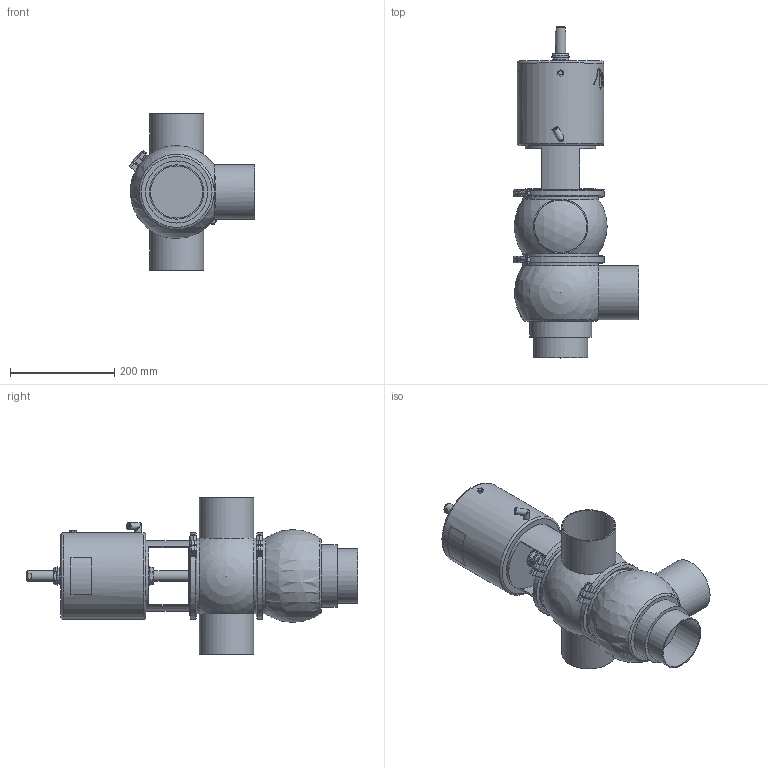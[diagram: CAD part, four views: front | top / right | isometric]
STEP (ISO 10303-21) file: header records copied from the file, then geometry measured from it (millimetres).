
FILE_DESCRIPTION (( 'STEP AP214' ), '1' );
FILE_NAME ('INNOVA K E W DIN 100 T4 AS NC_10.240.16.0022.STEP', '2024-08-06T10:52:31', ( '' ), ( '' ), 'SwSTEP 2.0', 'SolidWorks 2023', '' );
FILE_SCHEMA (( 'AUTOMOTIVE_DESIGN' ));
Length unit declared in the file: millimetre
Products named in the file (6): 10.240.15.0014_T4 AS P0; 10.240.15.0002_DIN 100; 10.240.15.0007_DIN 100; 10.240.15.0010_DN 100; 10.240.15.0001_DN 100; INNOVA K E W DIN 100 T4 AS NC_10.240.16.0022
Assembly tree (6 placements, depth 2):
  INNOVA K E W DIN 100 T4 AS NC_10.240.16.0022
    10.240.15.0007_DIN 100
    10.240.15.0002_DIN 100
    10.240.15.0010_DN 100
    10.240.15.0014_T4 AS P0
    10.240.15.0001_DN 100  x2
Bounding box: 241.26 x 636 x 300 mm (x, y, z)
Volume: 9495707.3 mm3; surface area: 692046.1 mm2
Topology: 6 solids, 6 shells, 402 faces, 1071 edges, 700 vertices
Faces by surface type: plane 194, cylinder 91, bspline 80, cone 26, sphere 6, torus 5
Full cylindrical faces by diameter (mm): 6.15 x1, 8 x5, 8.5 x1, 10.5 x1, 12.5 x3, 16 x1, 20 x2, 31 x1, 34.5 x2, 36.5 x1, 100 x4, 104 x4, 119 x1, 135 x1, 144.5 x3, 156.5 x4, 166 x1
Entity records: 20843 total; most frequent: CARTESIAN_POINT 11436, ORIENTED_EDGE 1646, DIRECTION 1273, EDGE_CURVE 823, VERTEX_POINT 568, AXIS2_PLACEMENT_3D 492, EDGE_LOOP 427, FACE_OUTER_BOUND 383
